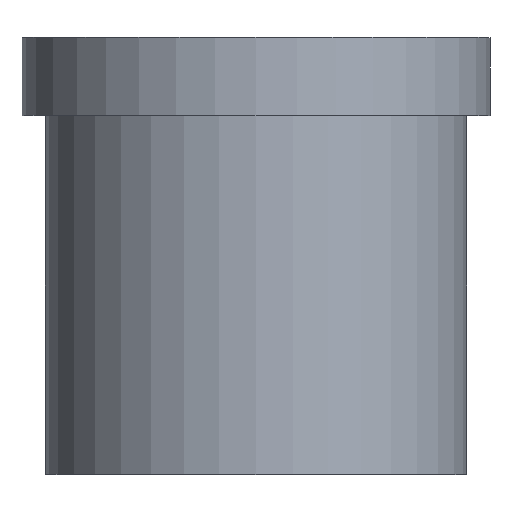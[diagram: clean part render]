
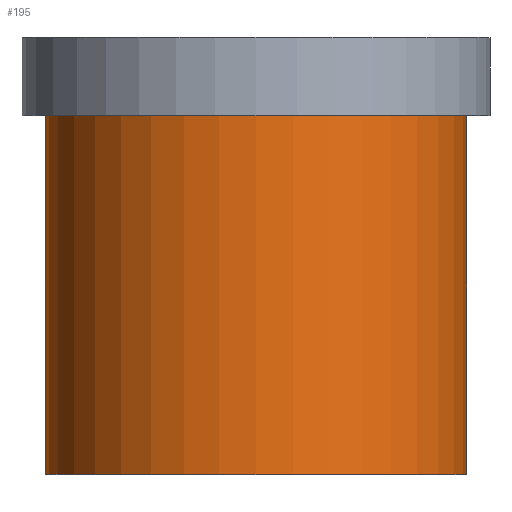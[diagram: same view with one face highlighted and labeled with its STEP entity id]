
A CAD part, top view. The second image highlights one B-rep face of the part: STEP entity #195.
In plain terms, the highlighted cylindrical face has radius 27 mm (diameter 54 mm), a full revolution.
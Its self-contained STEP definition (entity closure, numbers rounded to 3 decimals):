
#32=ORIENTED_EDGE('',*,*,#50,.T.);
#33=ORIENTED_EDGE('',*,*,#49,.F.);
#49=EDGE_CURVE('',#59,#59,#69,.T.);
#50=EDGE_CURVE('',#60,#60,#70,.T.);
#59=VERTEX_POINT('',#280);
#60=VERTEX_POINT('',#283);
#69=CIRCLE('',#213,27.);
#70=CIRCLE('',#215,27.);
#82=EDGE_LOOP('',(#32));
#83=EDGE_LOOP('',(#33));
#102=FACE_BOUND('',#82,.T.);
#103=FACE_BOUND('',#83,.T.);
#117=CYLINDRICAL_SURFACE('',#214,27.);
#195=ADVANCED_FACE('',(#102,#103),#117,.T.);
#213=AXIS2_PLACEMENT_3D('',#279,#241,#242);
#214=AXIS2_PLACEMENT_3D('',#281,#243,#244);
#215=AXIS2_PLACEMENT_3D('',#282,#245,#246);
#241=DIRECTION('',(0.,-1.,0.));
#242=DIRECTION('',(0.,0.,-1.));
#243=DIRECTION('',(0.,-1.,0.));
#244=DIRECTION('',(0.,0.,-1.));
#245=DIRECTION('',(0.,-1.,0.));
#246=DIRECTION('',(0.,0.,-1.));
#279=CARTESIAN_POINT('',(0.,0.,0.));
#280=CARTESIAN_POINT('',(0.,0.,-27.));
#281=CARTESIAN_POINT('',(0.,0.,0.));
#282=CARTESIAN_POINT('',(0.,46.,0.));
#283=CARTESIAN_POINT('',(0.,46.,-27.));
